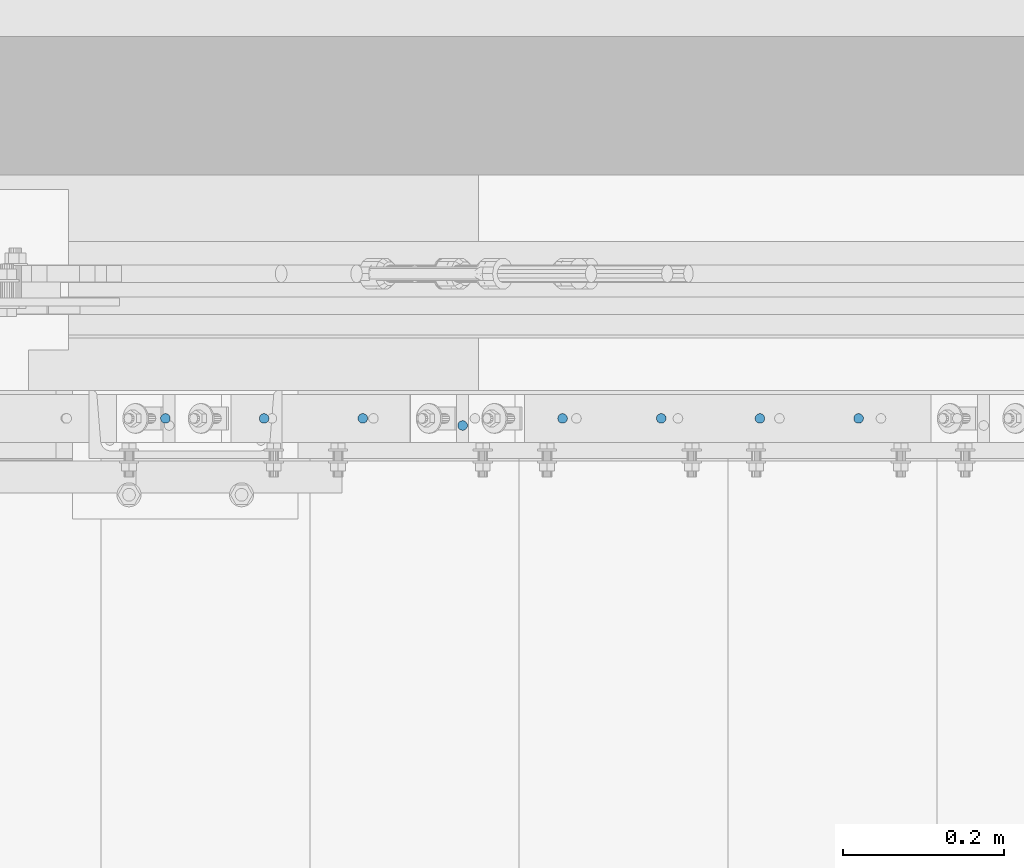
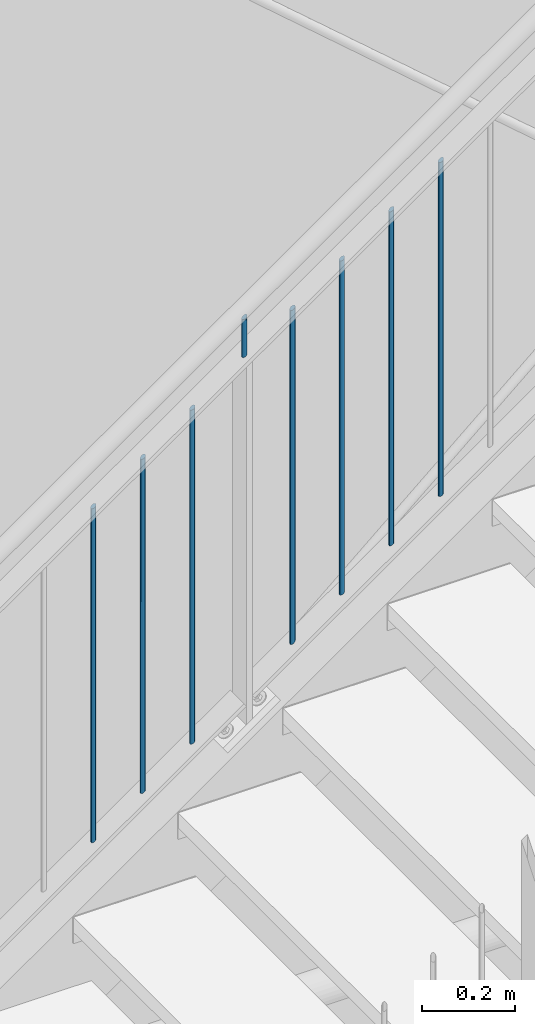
# One storey, part 76 of 831: 8 columns.
"""IFC2X3 building model written with IfcOpenShell, lengths in millimetres."""

from ifc_helpers import new_model, entity, si_unit, converted_unit, frame, origin, origin_with_axes, origin_2d, place, context, project, spatial, circle, extrude, clip, halfspace, material, element, save


model = new_model("IFC2X3")

# Units and contexts
model_context = context("Model", 3, precision=1e-09, world=origin_with_axes())
ifc_project = project(units=[si_unit("LENGTHUNIT", "METRE", prefix="MILLI"), si_unit("AREAUNIT", "SQUARE_METRE"), si_unit("VOLUMEUNIT", "CUBIC_METRE"), converted_unit("PLANEANGLEUNIT", "DEGREE", entity("IfcPlaneAngleMeasure", 0.01745329), si_unit("PLANEANGLEUNIT", "RADIAN"), dimensions=[0, 0, 0, 0, 0, 0, 0])], contexts=[model_context])

# Site, building, storey
site_placement = place(None, origin_with_axes())
site = spatial("IfcSite", under=ifc_project, at=site_placement, Name="Site", CompositionType="ELEMENT")
building_placement = place(site_placement, origin_with_axes())
building = spatial("IfcBuilding", under=site, at=building_placement, Name="Struktur 1", CompositionType="ELEMENT")
storey_placement = place(building_placement, origin_with_axes())
storey = spatial("IfcBuildingStorey", under=building, at=storey_placement, Name="Default Storey", CompositionType="ELEMENT", Elevation=0.0)

# Columns
ifc_material = material(Name="S235JR")
column_1_placement = place(None, frame((5316.963498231, 7356.736971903, 5098.441756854), z_axis=(0.0, 0.0, 1.0), x_axis=(1.0, 0.0, 0.0)))
element("IfcColumn", 1, at=column_1_placement, inside=storey, material=ifc_material, Name="Railing_Picket_Stair#4", ObjectType="Railing_Picket_Stair#4", context=model_context, shape_type="Clipping", body=[
    clip(clip(extrude(circle(Radius=6.0, at=origin_2d()), origin(), (0.0, 0.0, -1.0), 897.037988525), halfspace(frame((-5539.862665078, -7356.736971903, -4781.389673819), z_axis=(-0.575128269, 0.0, 0.818063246), x_axis=(0.0, -1.0, 0.0)), True)), halfspace(frame((-5952.149832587, -7356.736971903, -4194.951836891), z_axis=(0.575128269, 0.0, -0.818063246), x_axis=(0.0, 1.0, 0.0)), True)),
])
column_2_placement = place(None, frame((5439.713522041, 7356.736971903, 5184.739496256), z_axis=(0.0, 0.0, 1.0), x_axis=(1.0, 0.0, 0.0)))
element("IfcColumn", 2, at=column_2_placement, inside=storey, material=ifc_material, Name="Railing_Picket_Stair#5", ObjectType="Railing_Picket_Stair#5", context=model_context, shape_type="Clipping", body=[
    clip(clip(extrude(circle(Radius=6.0, at=origin_2d()), origin(), (0.0, 0.0, -1.0), 897.037988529), halfspace(frame((-5662.612688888, -7356.736971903, -4867.687413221), z_axis=(-0.575128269, 0.0, 0.818063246), x_axis=(0.0, -1.0, 0.0)), True)), halfspace(frame((-6074.899856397, -7356.736971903, -4281.249576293), z_axis=(0.575128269, 0.0, -0.818063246), x_axis=(0.0, 1.0, 0.0)), True)),
])
column_3_placement = place(None, frame((5562.46354585, 7356.736971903, 5271.037235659), z_axis=(0.0, 0.0, 1.0), x_axis=(1.0, 0.0, 0.0)))
element("IfcColumn", 3, at=column_3_placement, inside=storey, material=ifc_material, Name="Railing_Picket_Stair#6", ObjectType="Railing_Picket_Stair#6", context=model_context, shape_type="Clipping", body=[
    clip(clip(extrude(circle(Radius=6.0, at=origin_2d()), origin(), (0.0, 0.0, -1.0), 897.037988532), halfspace(frame((-5785.362712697, -7356.736971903, -4953.985152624), z_axis=(-0.575128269, 0.0, 0.818063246), x_axis=(0.0, -1.0, 0.0)), True)), halfspace(frame((-6197.649880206, -7356.736971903, -4367.547315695), z_axis=(0.575128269, 0.0, -0.818063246), x_axis=(0.0, 1.0, 0.0)), True)),
])
column_4_placement = place(None, frame((5810.96354585, 7356.736971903, 5445.741790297), z_axis=(0.0, 0.0, 1.0), x_axis=(1.0, 0.0, 0.0)))
element("IfcColumn", 4, at=column_4_placement, inside=storey, material=ifc_material, Name="Railing_Picket_Stair#7", ObjectType="Railing_Picket_Stair#7", context=model_context, shape_type="Clipping", body=[
    clip(clip(extrude(circle(Radius=6.0, at=origin_2d()), origin(), (0.0, 0.0, -1.0), 897.03798854), halfspace(frame((-6033.862712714, -7356.736971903, -5128.689707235), z_axis=(-0.575128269, 0.0, 0.818063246), x_axis=(0.0, -1.0, 0.0)), True)), halfspace(frame((-6446.149880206, -7356.736971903, -4542.251870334), z_axis=(0.575128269, 0.0, -0.818063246), x_axis=(0.0, 1.0, 0.0)), True)),
])
column_5_placement = place(None, frame((5933.71356966, 7356.736971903, 5532.039529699), z_axis=(0.0, 0.0, 1.0), x_axis=(1.0, 0.0, 0.0)))
element("IfcColumn", 5, at=column_5_placement, inside=storey, material=ifc_material, Name="Railing_Picket_Stair#8", ObjectType="Railing_Picket_Stair#8", context=model_context, shape_type="Clipping", body=[
    clip(clip(extrude(circle(Radius=6.0, at=origin_2d()), origin(), (0.0, 0.0, -1.0), 897.037988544), halfspace(frame((-6156.612736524, -7356.736971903, -5214.987446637), z_axis=(-0.575128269, 0.0, 0.818063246), x_axis=(0.0, -1.0, 0.0)), True)), halfspace(frame((-6568.899904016, -7356.736971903, -4628.549609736), z_axis=(0.575128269, 0.0, -0.818063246), x_axis=(0.0, 1.0, 0.0)), True)),
])
column_6_placement = place(None, frame((6056.463593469, 7356.736971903, 5618.337269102), z_axis=(0.0, 0.0, 1.0), x_axis=(1.0, 0.0, 0.0)))
element("IfcColumn", 6, at=column_6_placement, inside=storey, material=ifc_material, Name="Railing_Picket_Stair#9", ObjectType="Railing_Picket_Stair#9", context=model_context, shape_type="Clipping", body=[
    clip(clip(extrude(circle(Radius=6.0, at=origin_2d()), origin(), (0.0, 0.0, -1.0), 897.037988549), halfspace(frame((-6279.362760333, -7356.736971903, -5301.285186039), z_axis=(-0.575128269, 0.0, 0.818063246), x_axis=(0.0, -1.0, 0.0)), True)), halfspace(frame((-6691.649927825, -7356.736971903, -4714.847349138), z_axis=(0.575128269, 0.0, -0.818063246), x_axis=(0.0, 1.0, 0.0)), True)),
])
column_7_placement = place(None, frame((6179.213617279, 7356.736971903, 5704.635008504), z_axis=(0.0, 0.0, 1.0), x_axis=(1.0, 0.0, 0.0)))
element("IfcColumn", 7, at=column_7_placement, inside=storey, material=ifc_material, Name="Railing_Picket_Stair#10", ObjectType="Railing_Picket_Stair#10", context=model_context, shape_type="Clipping", body=[
    clip(clip(extrude(circle(Radius=6.0, at=origin_2d()), origin(), (0.0, 0.0, -1.0), 897.037988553), halfspace(frame((-6402.112784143, -7356.736971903, -5387.582925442), z_axis=(-0.575128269, 0.0, 0.818063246), x_axis=(0.0, -1.0, 0.0)), True)), halfspace(frame((-6814.399951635, -7356.736971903, -4801.145088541), z_axis=(0.575128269, 0.0, -0.818063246), x_axis=(0.0, 1.0, 0.0)), True)),
])
column_8_placement = place(None, frame((5686.71354585, 7347.936971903, 5470.613506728), z_axis=(0.0, 0.0, 1.0), x_axis=(0.0, -1.0, 0.0)))
element("IfcColumn", 8, at=column_8_placement, inside=storey, material=ifc_material, Name="Bar#1", ObjectType="Bar#1", context=model_context, shape_type="Clipping", body=[
    clip(clip(extrude(circle(Radius=6.0, at=origin_2d()), origin(), (0.0, 0.0, -1.0), 120.744805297), halfspace(frame((7347.936971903, -6327.652313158, -4558.941318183), z_axis=(0.0, -0.575128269, 0.818063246), x_axis=(1.0, 0.0, 0.0)), True)), halfspace(frame((7347.936971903, -6374.700292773, -4492.020206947), z_axis=(0.0, 0.575128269, -0.818063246), x_axis=(-1.0, 0.0, 0.0)), True)),
])

save(model, "model.ifc")
